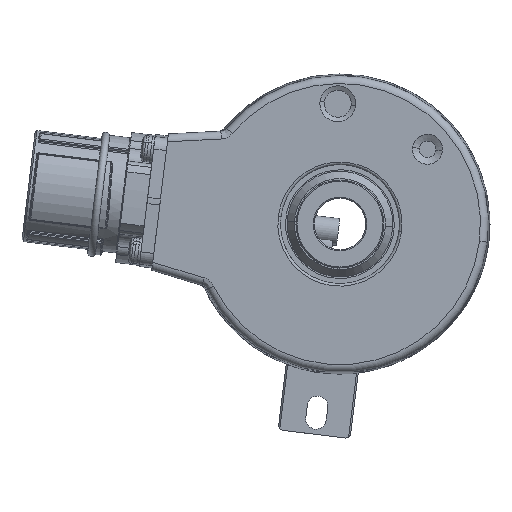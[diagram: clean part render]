
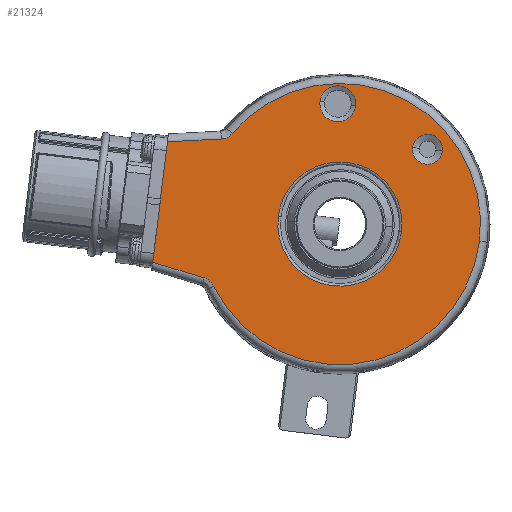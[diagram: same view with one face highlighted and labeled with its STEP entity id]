
A CAD part, left-side view. The second image highlights one B-rep face of the part: STEP entity #21324.
In plain terms, the highlighted planar face has unit normal (-1, 0, 0).
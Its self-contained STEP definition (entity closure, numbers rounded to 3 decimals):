
#533 = CARTESIAN_POINT ( 'NONE',  ( -19., 0., 0. ) ) ;
#995 = LINE ( 'NONE', #26282, #20357 ) ;
#1226 = VERTEX_POINT ( 'NONE', #27317 ) ;
#1351 = CARTESIAN_POINT ( 'NONE',  ( -19., 0., 0. ) ) ;
#1386 = CARTESIAN_POINT ( 'NONE',  ( -19., 24.487, -11.781 ) ) ;
#2337 = ORIENTED_EDGE ( 'NONE', *, *, #17994, .T. ) ;
#2440 = CARTESIAN_POINT ( 'NONE',  ( -19., 20.777, 17.512 ) ) ;
#2593 = CIRCLE ( 'NONE', #14523, 2.899 ) ;
#2729 = AXIS2_PLACEMENT_3D ( 'NONE', #4602, #31534, #8535 ) ;
#3194 = DIRECTION ( 'NONE',  ( 1., 0., 0. ) ) ;
#4386 = DIRECTION ( 'NONE',  ( 0., -0.993, -0.122 ) ) ;
#4600 = VECTOR ( 'NONE', #16614, 1000. ) ;
#4602 = CARTESIAN_POINT ( 'NONE',  ( -19., 0.406, 23.246 ) ) ;
#4823 = CARTESIAN_POINT ( 'NONE',  ( -19., 0., 0. ) ) ;
#5038 = CARTESIAN_POINT ( 'NONE',  ( -19., 22.503, 16.493 ) ) ;
#5062 = ORIENTED_EDGE ( 'NONE', *, *, #40289, .T. ) ;
#5195 = AXIS2_PLACEMENT_3D ( 'NONE', #44390, #21646, #48130 ) ;
#5710 = ORIENTED_EDGE ( 'NONE', *, *, #38545, .T. ) ;
#6466 = VERTEX_POINT ( 'NONE', #37352 ) ;
#6626 = CARTESIAN_POINT ( 'NONE',  ( -19., 11.911, 1.462 ) ) ;
#7043 = VERTEX_POINT ( 'NONE', #23017 ) ;
#7359 = FACE_OUTER_BOUND ( 'NONE', #39307, .T. ) ;
#7386 = VERTEX_POINT ( 'NONE', #11263 ) ;
#8233 = LINE ( 'NONE', #11674, #27541 ) ;
#8535 = DIRECTION ( 'NONE',  ( 0., -0.993, -0.122 ) ) ;
#8775 = DIRECTION ( 'NONE',  ( 0., -0.993, -0.122 ) ) ;
#8978 = DIRECTION ( 'NONE',  ( 1., 0., 0. ) ) ;
#8998 = CARTESIAN_POINT ( 'NONE',  ( -19., 21.917, 16.669 ) ) ;
#9568 = DIRECTION ( 'NONE',  ( 1., 0., 0. ) ) ;
#10314 = VERTEX_POINT ( 'NONE', #2440 ) ;
#10482 = EDGE_LOOP ( 'NONE', ( #34857, #12166 ) ) ;
#10530 = ORIENTED_EDGE ( 'NONE', *, *, #45389, .T. ) ;
#10588 = DIRECTION ( 'NONE',  ( 1., 0., 0. ) ) ;
#11207 = CARTESIAN_POINT ( 'NONE',  ( -19., 26.213, -10.418 ) ) ;
#11263 = CARTESIAN_POINT ( 'NONE',  ( -19., 22.914, 16.45 ) ) ;
#11674 = CARTESIAN_POINT ( 'NONE',  ( -19., 36.354, -8.886 ) ) ;
#11926 = EDGE_CURVE ( 'NONE', #46930, #45602, #46779, .T. ) ;
#12166 = ORIENTED_EDGE ( 'NONE', *, *, #41866, .T. ) ;
#12694 = CARTESIAN_POINT ( 'NONE',  ( -19., 33.046, 15.919 ) ) ;
#12844 = CARTESIAN_POINT ( 'NONE',  ( -19., 21.376, 16.962 ) ) ;
#13022 = CARTESIAN_POINT ( 'NONE',  ( -19., 24.848, -11.282 ) ) ;
#13073 = CARTESIAN_POINT ( 'NONE',  ( -19., -11.911, -1.462 ) ) ;
#13208 = ORIENTED_EDGE ( 'NONE', *, *, #42365, .F. ) ;
#13472 = CARTESIAN_POINT ( 'NONE',  ( -19., 3.846, 23.669 ) ) ;
#13813 = CIRCLE ( 'NONE', #17401, 12. ) ;
#13818 = DIRECTION ( 'NONE',  ( 1., 0., 0. ) ) ;
#14523 = AXIS2_PLACEMENT_3D ( 'NONE', #36761, #13818, #40552 ) ;
#14732 = VERTEX_POINT ( 'NONE', #11207 ) ;
#14836 = CARTESIAN_POINT ( 'NONE',  ( -19., -3.034, 22.824 ) ) ;
#15649 = VERTEX_POINT ( 'NONE', #27787 ) ;
#16585 = CARTESIAN_POINT ( 'NONE',  ( -19., 22.708, 16.461 ) ) ;
#16614 = DIRECTION ( 'NONE',  ( 0., 0.999, -0.052 ) ) ;
#16742 = CARTESIAN_POINT ( 'NONE',  ( -19., 20.91, 17.355 ) ) ;
#16933 = CARTESIAN_POINT ( 'NONE',  ( -19., 25.3, -10.87 ) ) ;
#16965 = ORIENTED_EDGE ( 'NONE', *, *, #42877, .T. ) ;
#17401 = AXIS2_PLACEMENT_3D ( 'NONE', #32517, #9568, #36367 ) ;
#17647 = FACE_BOUND ( 'NONE', #18956, .T. ) ;
#17994 = EDGE_CURVE ( 'NONE', #7043, #10314, #31074, .T. ) ;
#18956 = EDGE_LOOP ( 'NONE', ( #47148, #5710 ) ) ;
#20357 = VECTOR ( 'NONE', #30115, 1000. ) ;
#20459 = CARTESIAN_POINT ( 'NONE',  ( -19., 22.914, 16.45 ) ) ;
#20830 = CARTESIAN_POINT ( 'NONE',  ( -19., 25.828, -10.557 ) ) ;
#21324 = ADVANCED_FACE ( 'NONE', ( #17647, #27881, #37981, #7359 ), #24476, .F. ) ;
#21646 = DIRECTION ( 'NONE',  ( 1., 0., 0. ) ) ;
#23017 = CARTESIAN_POINT ( 'NONE',  ( -19., -26.97, -3.312 ) ) ;
#24476 = PLANE ( 'NONE',  #41155 ) ;
#24507 = CARTESIAN_POINT ( 'NONE',  ( -19., 24.396, -11.966 ) ) ;
#24671 = CARTESIAN_POINT ( 'NONE',  ( -19., 26.213, -10.418 ) ) ;
#26282 = CARTESIAN_POINT ( 'NONE',  ( -19., 25.556, -10.618 ) ) ;
#26312 = CARTESIAN_POINT ( 'NONE',  ( -19., 0., 0. ) ) ;
#26314 = AXIS2_PLACEMENT_3D ( 'NONE', #33536, #10588, #37381 ) ;
#27004 = DIRECTION ( 'NONE',  ( 0., -0.122, 0.993 ) ) ;
#27317 = CARTESIAN_POINT ( 'NONE',  ( -19., 33.31, 15.905 ) ) ;
#27526 = DIRECTION ( 'NONE',  ( -1., 0., 0. ) ) ;
#27541 = VECTOR ( 'NONE', #27004, 1000. ) ;
#27787 = CARTESIAN_POINT ( 'NONE',  ( -19., 36.168, -7.374 ) ) ;
#27881 = FACE_BOUND ( 'NONE', #39211, .T. ) ;
#30115 = DIRECTION ( 'NONE',  ( 0., -0.956, -0.292 ) ) ;
#30156 = DIRECTION ( 'NONE',  ( 0., -0.993, -0.122 ) ) ;
#31074 = CIRCLE ( 'NONE', #44043, 27.173 ) ;
#31534 = DIRECTION ( 'NONE',  ( 1., 0., 0. ) ) ;
#31688 = CARTESIAN_POINT ( 'NONE',  ( -19., -19.796, 14.097 ) ) ;
#31759 = DIRECTION ( 'NONE',  ( -1., 0., 0. ) ) ;
#31876 = CARTESIAN_POINT ( 'NONE',  ( -19., -14.042, 14.804 ) ) ;
#31976 = CARTESIAN_POINT ( 'NONE',  ( -19., 22.108, 16.597 ) ) ;
#32122 = DIRECTION ( 'NONE',  ( 0., -0.993, -0.122 ) ) ;
#32517 = CARTESIAN_POINT ( 'NONE',  ( -19., 0., 0. ) ) ;
#33536 = CARTESIAN_POINT ( 'NONE',  ( -19., 0.406, 23.246 ) ) ;
#33572 = AXIS2_PLACEMENT_3D ( 'NONE', #26312, #3194, #30156 ) ;
#34292 = VERTEX_POINT ( 'NONE', #31876 ) ;
#34683 = B_SPLINE_CURVE_WITH_KNOTS ( 'NONE', 3,
 ( #24507, #1386, #35971, #13022, #39799, #16933, #43586, #20830, #47346, #24671 ),
 .UNSPECIFIED., .F., .F.,
 ( 4, 2, 2, 2, 4 ),
 ( 0., 0.001, 0.001, 0.002, 0.002 ),
 .UNSPECIFIED. ) ;
#34857 = ORIENTED_EDGE ( 'NONE', *, *, #38644, .T. ) ;
#35134 = ORIENTED_EDGE ( 'NONE', *, *, #44910, .F. ) ;
#35395 = EDGE_CURVE ( 'NONE', #34292, #39524, #2593, .T. ) ;
#35803 = CARTESIAN_POINT ( 'NONE',  ( -19., 21.552, 16.851 ) ) ;
#35971 = CARTESIAN_POINT ( 'NONE',  ( -19., 24.597, -11.605 ) ) ;
#36351 = CIRCLE ( 'NONE', #46316, 27.173 ) ;
#36367 = DIRECTION ( 'NONE',  ( 0., -0.993, -0.122 ) ) ;
#36484 = LINE ( 'NONE', #12694, #4600 ) ;
#36761 = CARTESIAN_POINT ( 'NONE',  ( -19., -16.919, 14.45 ) ) ;
#37352 = CARTESIAN_POINT ( 'NONE',  ( -19., 24.396, -11.966 ) ) ;
#37381 = DIRECTION ( 'NONE',  ( 0., -0.993, -0.122 ) ) ;
#37981 = FACE_BOUND ( 'NONE', #10482, .T. ) ;
#37996 = ORIENTED_EDGE ( 'NONE', *, *, #11926, .T. ) ;
#38545 = EDGE_CURVE ( 'NONE', #39524, #34292, #39228, .T. ) ;
#38644 = EDGE_CURVE ( 'NONE', #47689, #42051, #46866, .T. ) ;
#39211 = EDGE_LOOP ( 'NONE', ( #37996, #5062 ) ) ;
#39228 = CIRCLE ( 'NONE', #5195, 2.899 ) ;
#39307 = EDGE_LOOP ( 'NONE', ( #13208, #16965, #39687, #43455, #35134, #10530, #2337 ) ) ;
#39524 = VERTEX_POINT ( 'NONE', #31688 ) ;
#39619 = CARTESIAN_POINT ( 'NONE',  ( -19., 21.056, 17.213 ) ) ;
#39687 = ORIENTED_EDGE ( 'NONE', *, *, #43301, .F. ) ;
#39799 = CARTESIAN_POINT ( 'NONE',  ( -19., 24.989, -11.135 ) ) ;
#40289 = EDGE_CURVE ( 'NONE', #45602, #46930, #44394, .T. ) ;
#40552 = DIRECTION ( 'NONE',  ( 0., -0.993, -0.122 ) ) ;
#41155 = AXIS2_PLACEMENT_3D ( 'NONE', #1351, #8978, #32122 ) ;
#41866 = EDGE_CURVE ( 'NONE', #42051, #47689, #13813, .T. ) ;
#42051 = VERTEX_POINT ( 'NONE', #6626 ) ;
#42365 = EDGE_CURVE ( 'NONE', #7386, #10314, #47430, .T. ) ;
#42877 = EDGE_CURVE ( 'NONE', #7386, #1226, #36484, .T. ) ;
#43301 = EDGE_CURVE ( 'NONE', #15649, #1226, #8233, .T. ) ;
#43421 = CARTESIAN_POINT ( 'NONE',  ( -19., 20.777, 17.512 ) ) ;
#43455 = ORIENTED_EDGE ( 'NONE', *, *, #43749, .T. ) ;
#43586 = CARTESIAN_POINT ( 'NONE',  ( -19., 25.471, -10.753 ) ) ;
#43749 = EDGE_CURVE ( 'NONE', #15649, #14732, #995, .T. ) ;
#44043 = AXIS2_PLACEMENT_3D ( 'NONE', #533, #27526, #4386 ) ;
#44390 = CARTESIAN_POINT ( 'NONE',  ( -19., -16.919, 14.45 ) ) ;
#44394 = CIRCLE ( 'NONE', #2729, 3.466 ) ;
#44910 = EDGE_CURVE ( 'NONE', #6466, #14732, #34683, .T. ) ;
#45389 = EDGE_CURVE ( 'NONE', #6466, #7043, #36351, .T. ) ;
#45602 = VERTEX_POINT ( 'NONE', #14836 ) ;
#46316 = AXIS2_PLACEMENT_3D ( 'NONE', #4823, #31759, #8775 ) ;
#46779 = CIRCLE ( 'NONE', #26314, 3.466 ) ;
#46866 = CIRCLE ( 'NONE', #33572, 12. ) ;
#46930 = VERTEX_POINT ( 'NONE', #13472 ) ;
#47148 = ORIENTED_EDGE ( 'NONE', *, *, #35395, .T. ) ;
#47346 = CARTESIAN_POINT ( 'NONE',  ( -19., 26.016, -10.478 ) ) ;
#47430 = B_SPLINE_CURVE_WITH_KNOTS ( 'NONE', 3,
 ( #20459, #16585, #5038, #31976, #8998, #35803, #12844, #39619, #16742, #43421 ),
 .UNSPECIFIED., .F., .F.,
 ( 4, 2, 2, 2, 4 ),
 ( 0., 0.001, 0.001, 0.002, 0.002 ),
 .UNSPECIFIED. ) ;
#47689 = VERTEX_POINT ( 'NONE', #13073 ) ;
#48130 = DIRECTION ( 'NONE',  ( 0., -0.993, -0.122 ) ) ;
